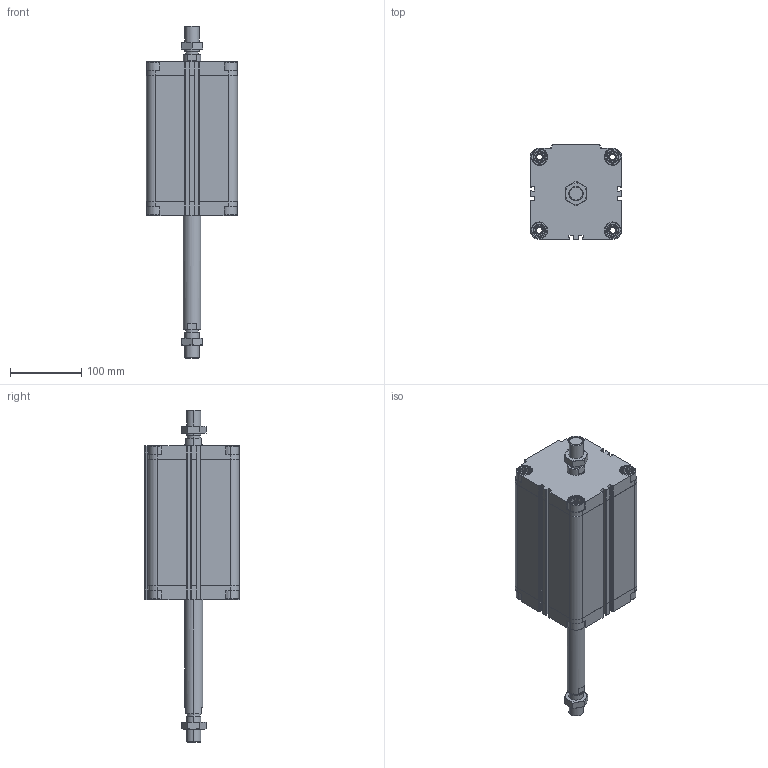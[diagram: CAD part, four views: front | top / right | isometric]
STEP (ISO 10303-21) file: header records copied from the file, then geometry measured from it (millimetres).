
FILE_DESCRIPTION (( 'STEP AP203' ), '1' );
FILE_NAME ('CDVU100-150M-P.STEP', '2020-07-21T16:41:09', ( '' ), ( '' ), 'SwSTEP 2.0', 'SolidWorks 2019', '' );
FILE_SCHEMA (( 'CONFIG_CONTROL_DESIGN' ));
Length unit declared in the file: millimetre
Products named in the file (1): CDVU100-150M-P
Bounding box: 128 x 133 x 466.5 mm (x, y, z)
Volume: 2409808 mm3; surface area: 330840.3 mm2
Topology: 4 solids, 4 shells, 706 faces, 1888 edges, 1234 vertices
Faces by surface type: plane 410, cylinder 216, cone 80
Entity records: 23055 total; most frequent: CARTESIAN_POINT 5265, ORIENTED_EDGE 3768, DIRECTION 3610, EDGE_CURVE 1884, AXIS2_PLACEMENT_3D 1235, VERTEX_POINT 1234, LINE 1140, VECTOR 1140
